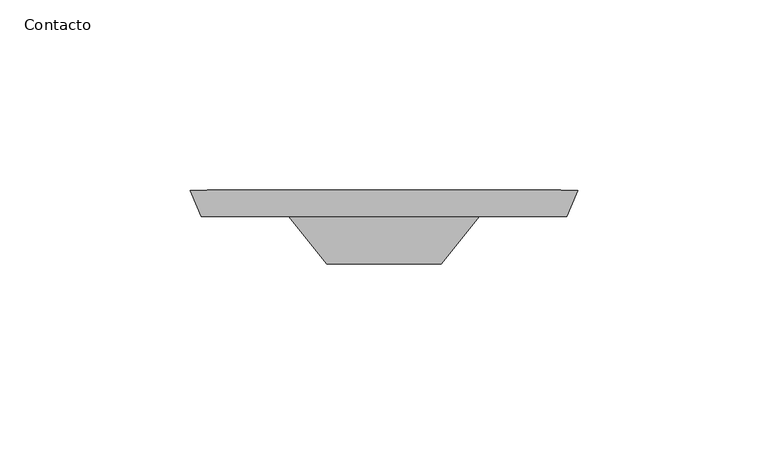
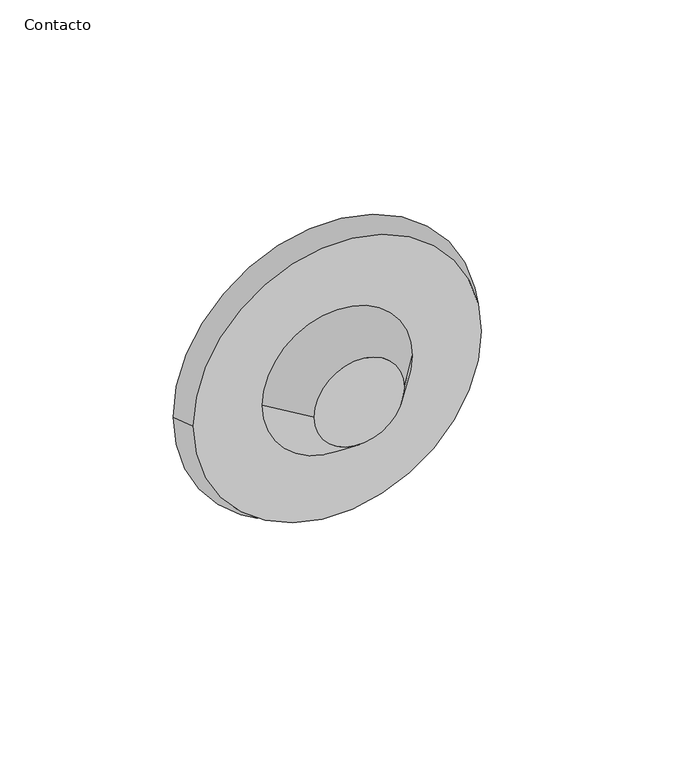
"""IFC4 building model written with IfcOpenShell, lengths in millimetres: light fixture geometry, Lumin muro - arbotante : Contacto."""

import ifcopenshell
import ifcopenshell.guid

model = None  # the IFC model being written
_history = None  # IfcOwnerHistory: only IFC2X3 demands one
_inside = {}  # id of a spatial element -> (the spatial element, [elements in it])
_under = {}  # id of a project, library or spatial element -> (it, [spatial elements below it])
_declared = {}  # id of a project -> (the project, [libraries it declares])
_typed = {}  # id of a type object -> (the type object, [elements of that type])
_made_of = {}  # id of a material, layer set ... -> (it, [elements and type objects made of it])


def new_model(schema):
    """Start an empty IFC model of exactly this schema.

    Asked for "IFC4X3", IfcOpenShell would pick the latest addendum, in which some entities
    have other attributes; the version numbers below select the first issue.
    IFC2X3 requires an IfcOwnerHistory on every rooted entity: one is made here for all.
    """
    global model, _history
    if schema == "IFC4X3":
        model = ifcopenshell.file(schema_version=(4, 3, 0, 0))
    else:
        model = ifcopenshell.file(schema=schema)
    _inside.clear()
    _under.clear()
    _declared.clear()
    _typed.clear()
    _made_of.clear()
    _history = None
    if model.schema == "IFC2X3":
        org = make("IfcOrganization", Name="unknown")
        user = make(
            "IfcPersonAndOrganization",
            ThePerson=make("IfcPerson", FamilyName="unknown"),
            TheOrganization=org,
        )
        app = make(
            "IfcApplication",
            ApplicationDeveloper=org,
            Version="unknown",
            ApplicationFullName="unknown",
            ApplicationIdentifier="unknown",
        )
        _history = make(
            "IfcOwnerHistory",
            OwningUser=user,
            OwningApplication=app,
            ChangeAction="ADDED",
            CreationDate=0,
        )
    return model


def make(cls, **values):
    """One entity of the class cls with the attributes given. An attribute that is None is left unset."""
    return model.create_entity(
        cls, **{name: value for name, value in values.items() if value is not None}
    )


def rooted(cls, **values):
    """An entity with a GlobalId (a new one), such as an element, a storey or a relation."""
    return make(cls, GlobalId=ifcopenshell.guid.new(), OwnerHistory=_history, **values)


def si_unit(unit_type, name, prefix=None):
    """IfcSIUnit, for example si_unit("LENGTHUNIT", "METRE", prefix="MILLI")."""
    return make("IfcSIUnit", UnitType=unit_type, Prefix=prefix, Name=name)


def assignment(units):
    """IfcUnitAssignment: the units of a project."""
    return None if units is None else make("IfcUnitAssignment", Units=units)


def point(xyz):
    """IfcCartesianPoint."""
    return None if xyz is None else make("IfcCartesianPoint", Coordinates=xyz)


def direction(xyz):
    """IfcDirection."""
    return None if xyz is None else make("IfcDirection", DirectionRatios=xyz)


def frame(location, z_axis=None, x_axis=None):
    """IfcAxis2Placement3D, a coordinate frame: its origin and axes. An axis left out is left unset."""
    return make(
        "IfcAxis2Placement3D",
        Location=point(location),
        Axis=direction(z_axis),
        RefDirection=direction(x_axis),
    )


def origin():
    """The frame at (0, 0, 0) with its axes left unset."""
    return frame((0.0, 0.0, 0.0))


def place(relative_to, where):
    """IfcLocalPlacement: puts the frame where relative to a parent placement (None: the world)."""
    return make(
        "IfcLocalPlacement", PlacementRelTo=relative_to, RelativePlacement=where
    )


def context(
    kind, dimensions, precision=None, world=None, true_north=None, identifier=None
):
    """IfcGeometricRepresentationContext, for example the 3D "Model" context."""
    return make(
        "IfcGeometricRepresentationContext",
        ContextIdentifier=identifier,
        ContextType=kind,
        CoordinateSpaceDimension=dimensions,
        Precision=precision,
        WorldCoordinateSystem=world,
        TrueNorth=true_north,
    )


def project(units=None, contexts=None):
    """IfcProject with its units and contexts."""
    return rooted(
        "IfcProject",
        Name="project",
        RepresentationContexts=contexts,
        UnitsInContext=assignment(units),
    )


def spatial(cls, under=None, at=None, **own):
    """A site, building, storey or space (cls), placed at a placement, below another one or the project."""
    s = rooted(cls, ObjectPlacement=at, **own)
    if under is not None:
        _under.setdefault(under.id(), (under, []))[1].append(s)
    return s


def polyline(points):
    """IfcPolyline through the points."""
    return make("IfcPolyline", Points=[point(p) for p in points])


def circle_curve(where, radius):
    """IfcCircle in the frame where."""
    return make("IfcCircle", Position=where, Radius=radius)


def shape(context_of_items, identifier, shape_type, items):
    """IfcShapeRepresentation: the items that make up one representation, for example the "Body"."""
    return make(
        "IfcShapeRepresentation",
        ContextOfItems=context_of_items,
        RepresentationIdentifier=identifier,
        RepresentationType=shape_type,
        Items=items,
    )


def source(mapping_origin, context_of_items, identifier, shape_type, items):
    """IfcRepresentationMap: a shape defined once, which mapped items show again and again."""
    return make(
        "IfcRepresentationMap",
        MappingOrigin=mapping_origin,
        MappedRepresentation=shape(context_of_items, identifier, shape_type, items),
    )


def transform(
    local_origin,
    x_axis=None,
    y_axis=None,
    z_axis=None,
    scale=None,
    scale2=None,
    scale3=None,
    uniform=True,
):
    """IfcCartesianTransformationOperator3D, or its non-uniform kind. x_axis, y_axis, z_axis: its Axis1, 2, 3."""
    if uniform:
        return make(
            "IfcCartesianTransformationOperator3D",
            Axis1=direction(x_axis),
            Axis2=direction(y_axis),
            LocalOrigin=point(local_origin),
            Scale=scale,
            Axis3=direction(z_axis),
        )
    return make(
        "IfcCartesianTransformationOperator3DnonUniform",
        Axis1=direction(x_axis),
        Axis2=direction(y_axis),
        LocalOrigin=point(local_origin),
        Scale=scale,
        Axis3=direction(z_axis),
        Scale2=scale2,
        Scale3=scale3,
    )


def mapped(mapping_source, mapping_target):
    """IfcMappedItem: shows the shape of a source again, moved by a transform."""
    return make(
        "IfcMappedItem", MappingSource=mapping_source, MappingTarget=mapping_target
    )


def made_of(thing, what):
    """Note that an element or type object is made of a material, layer set ...; save() writes the relation."""
    if what is not None:
        _made_of.setdefault(what.id(), (what, []))[1].append(thing)
    return thing


def element(
    cls,
    number,
    at=None,
    inside=None,
    cuts=None,
    type_object=None,
    material=None,
    context=None,
    identifier="Body",
    shape_type=None,
    held_by="IfcProductDefinitionShape",
    body=None,
    shapes=None,
    **own,
):
    """One element of the class cls, such as IfcWall. Its Tag is "e" and its number.

    at: its placement. inside: the storey or other place that contains it. cuts: it is an
    opening in that element (IfcRelVoidsElement). A single representation is given by context,
    identifier, shape_type and body (its items); several are given by shapes. held_by: the class
    of the entity that holds the representations. save() writes the other relations.
    """
    e = rooted(cls, Tag="e%d" % number, ObjectPlacement=at, **own)
    if body is not None:
        shapes = [shape(context, identifier, shape_type, body)]
    if shapes is not None:
        e.Representation = make(held_by, Representations=shapes)
    if inside is not None:
        _inside.setdefault(inside.id(), (inside, []))[1].append(e)
    if cuts is not None:
        rooted(
            "IfcRelVoidsElement", RelatingBuildingElement=cuts, RelatedOpeningElement=e
        )
    if type_object is not None:
        _typed.setdefault(type_object.id(), (type_object, []))[1].append(e)
    return made_of(e, material)


def aggregate(whole, parts):
    """IfcRelAggregates: a whole, such as a stair, and the parts it consists of."""
    return rooted("IfcRelAggregates", RelatingObject=whole, RelatedObjects=parts)


def save(model, path):
    """Write the relations noted so far, then the file.

    IfcRelAggregates (storeys below a building ...), IfcRelContainedInSpatialStructure (elements
    in a storey), IfcRelDefinesByType, IfcRelAssociatesMaterial and IfcRelDeclares: one each for
    every whole, place, type object, material and project.
    """
    for whole, parts in _under.values():
        aggregate(whole, parts)
    for where, things in _inside.values():
        rooted(
            "IfcRelContainedInSpatialStructure",
            RelatedElements=things,
            RelatingStructure=where,
        )
    for kind, things in _typed.values():
        rooted("IfcRelDefinesByType", RelatedObjects=things, RelatingType=kind)
    for what, things in _made_of.values():
        rooted("IfcRelAssociatesMaterial", RelatedObjects=things, RelatingMaterial=what)
    for by, libraries in _declared.values():
        rooted("IfcRelDeclares", RelatingContext=by, RelatedDefinitions=libraries)
    model.write(path)


def plane_surface(at):
    """IfcPlane: the flat surface through the origin of the frame at, square to its z axis."""
    return make("IfcPlane", Position=at)


def revolved_surface(curve, axis_point, axis_direction):
    """IfcSurfaceOfRevolution: the curve turned about the line through axis_point along axis_direction."""
    return make(
        "IfcSurfaceOfRevolution",
        SweptCurve=make("IfcArbitraryOpenProfileDef", ProfileType="CURVE", Curve=curve),
        AxisPosition=make("IfcAxis1Placement", Location=point(axis_point), Axis=direction(axis_direction)),
    )


def advanced_brep(points, edges, surfaces, faces):
    """IfcAdvancedBrep: a solid bounded by faces that lie on surfaces and meet in shared edges.

    An edge is (start, end): straight between two places in points (the first is 0);
    or (start, end, curve); or (start, end, curve, False) where it runs against its curve.
    A face is (place in surfaces, loops), or (place, loops, False) where it looks against
    its surface's normal. A loop lists edges by number (the first is 1), with a minus sign
    where the edge is run from its end to its start. The first loop is the outer one.
    """
    corners = [point(p) for p in points]
    vertices = [make("IfcVertexPoint", VertexGeometry=c) for c in corners]
    made = []
    for start, end, *more in edges:
        made.append(
            make(
                "IfcEdgeCurve",
                EdgeStart=vertices[start],
                EdgeEnd=vertices[end],
                EdgeGeometry=more[0] if more else make("IfcPolyline", Points=[corners[start], corners[end]]),
                SameSense=more[1] if len(more) > 1 else True,
            )
        )
    hull = []
    for where, loops, *sense in faces:
        bounds = []
        for j, loop in enumerate(loops):
            ring = [make("IfcOrientedEdge", EdgeElement=made[abs(k) - 1], Orientation=k > 0) for k in loop]
            bounds.append(
                make(
                    "IfcFaceOuterBound" if j == 0 else "IfcFaceBound",
                    Bound=make("IfcEdgeLoop", EdgeList=ring),
                    Orientation=True,
                )
            )
        hull.append(make("IfcAdvancedFace", Bounds=bounds, FaceSurface=surfaces[where], SameSense=sense[0] if sense else True))
    return make("IfcAdvancedBrep", Outer=make("IfcClosedShell", CfsFaces=hull))


def contacto_07b5e109(model_context):
    return source(origin(), model_context, "Body", "AdvancedBrep", [
        advanced_brep(
        [(100.0, -96.8662003, 1979.905358), (150.0, -96.8662003, 1979.905358), (110.0, -109.4205595, 1979.905358), (140.0, -109.4205595, 1979.905358)],
        [
            (0, 1, circle_curve(frame((125.0, -96.8662003, 1979.905358), z_axis=(0.0, 1.0, 0.0), x_axis=(1.0, 0.0, 0.0)), 25.0)),
            (1, 0, circle_curve(frame((125.0, -96.8662003, 1979.905358), z_axis=(0.0, 1.0, 0.0), x_axis=(-1.0, 0.0, 0.0)), 25.0)),
            (2, 3, circle_curve(frame((125.0, -109.4205595, 1979.905358), z_axis=(0.0, -1.0, 0.0), x_axis=(-1.0, 0.0, 0.0)), 15.0)),
            (3, 2, circle_curve(frame((125.0, -109.4205595, 1979.905358), z_axis=(0.0, -1.0, 0.0), x_axis=(1.0, 0.0, 0.0)), 15.0)),
            (2, 0),
            (1, 3),
        ],
        [
            plane_surface(frame((125.0, -96.8662003, 1979.905358), z_axis=(0.0, 1.0, 0.0), x_axis=(0.0, 0.0, -1.0))),
            plane_surface(frame((125.0, -109.4205595, 1979.905358), z_axis=(0.0, -1.0, 0.0), x_axis=(0.0, 0.0, -1.0))),
            revolved_surface(polyline([(110.0, -109.4205595, 1979.905358), (100.0, -96.8662003, 1979.905358)]), (125.0, -128.2520983, 1979.905358), (0.0, 1.0, 0.0)),
            revolved_surface(polyline([(140.0, -109.4205595, 1979.905358), (150.0, -96.8662003, 1979.905358)]), (125.0, -128.2520983, 1979.905358), (0.0, 1.0, 0.0)),
        ],
        [
            (0, [[1, 2]]),
            (1, [[3, 4]]),
            (2, [[5, -2, 6, -3]]),
            (3, [[-6, -1, -5, -4]]),
        ],
    ),
        advanced_brep(
        [(77.0, -96.8662003, 1980.5403011), (173.0, -96.8662003, 1980.5403011), (74.2, -90.0, 1980.5403011), (175.8, -90.0, 1980.5403011)],
        [
            (0, 1, circle_curve(frame((125.0, -96.8662003, 1980.5403011), z_axis=(0.0, -1.0, 0.0), x_axis=(1.0, 0.0, 0.0)), 48.0)),
            (1, 0, circle_curve(frame((125.0, -96.8662003, 1980.5403011), z_axis=(0.0, -1.0, 0.0), x_axis=(-1.0, 0.0, 0.0)), 48.0)),
            (2, 3, circle_curve(frame((125.0, -90.0, 1980.5403011), z_axis=(0.0, 1.0, 0.0), x_axis=(-1.0, 0.0, 0.0)), 50.8)),
            (3, 2, circle_curve(frame((125.0, -90.0, 1980.5403011), z_axis=(0.0, 1.0, 0.0), x_axis=(1.0, 0.0, 0.0)), 50.8)),
            (2, 0),
            (1, 3),
        ],
        [
            plane_surface(frame((125.0, -96.8662003, 1980.5403011), z_axis=(0.0, -1.0, 0.0), x_axis=(0.0, 0.0, 1.0))),
            plane_surface(frame((125.0, -90.0, 1980.5403011), z_axis=(0.0, 1.0, 0.0), x_axis=(0.0, 0.0, 1.0))),
            revolved_surface(polyline([(77.0000000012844, -96.8662003, 1980.5403011), (74.2, -90.0, 1980.5403011)]), (125.0, -214.5724911, 1980.5403011), (0.0, 1.0, 0.0)),
            revolved_surface(polyline([(172.99999999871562, -96.8662003, 1980.5403011), (175.8, -90.0, 1980.5403011)]), (125.0, -214.5724911, 1980.5403011), (0.0, 1.0, 0.0)),
        ],
        [
            (0, [[1, 2]]),
            (1, [[3, 4]]),
            (2, [[5, -2, 6, -3]]),
            (3, [[-6, -1, -5, -4]]),
        ],
    ),
    ])


if __name__ == "__main__":
    model = new_model("IFC4")
    model_context = context("Model", 3, world=origin())
    ifc_project = project(units=[si_unit("LENGTHUNIT", "METRE", prefix="MILLI")], contexts=[model_context])
    site = spatial("IfcSite", under=ifc_project)
    building = spatial("IfcBuilding", under=site)
    placement = place(None, origin())
    contacto_shape = contacto_07b5e109(model_context)
    element("IfcLightFixture", 1, ObjectType="Lumin muro - arbotante : Contacto", at=placement, inside=building, context=model_context, shape_type="MappedRepresentation", body=[
        mapped(contacto_shape, transform((0.0, 0.0, 0.0), x_axis=(1.0, 0.0, 0.0), y_axis=(0.0, 1.0, 0.0), z_axis=(0.0, 0.0, 1.0))),
    ])
    save(model, "model.ifc")
